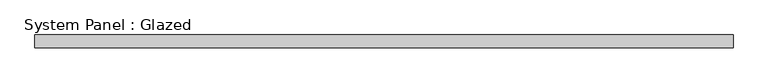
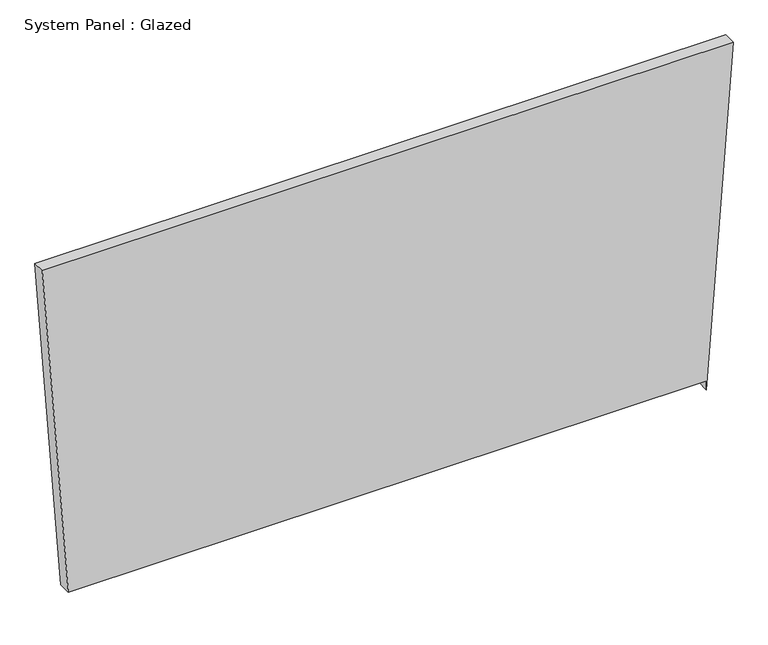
"""IFC4 building model written with IfcOpenShell, lengths in millimetres: plate geometry, System Panel : Glazed."""

import ifcopenshell
import ifcopenshell.guid

model = None  # the IFC model being written
_history = None  # IfcOwnerHistory: only IFC2X3 demands one
_inside = {}  # id of a spatial element -> (the spatial element, [elements in it])
_under = {}  # id of a project, library or spatial element -> (it, [spatial elements below it])
_declared = {}  # id of a project -> (the project, [libraries it declares])
_typed = {}  # id of a type object -> (the type object, [elements of that type])
_made_of = {}  # id of a material, layer set ... -> (it, [elements and type objects made of it])


def new_model(schema):
    """Start an empty IFC model of exactly this schema.

    Asked for "IFC4X3", IfcOpenShell would pick the latest addendum, in which some entities
    have other attributes; the version numbers below select the first issue.
    IFC2X3 requires an IfcOwnerHistory on every rooted entity: one is made here for all.
    """
    global model, _history
    if schema == "IFC4X3":
        model = ifcopenshell.file(schema_version=(4, 3, 0, 0))
    else:
        model = ifcopenshell.file(schema=schema)
    _inside.clear()
    _under.clear()
    _declared.clear()
    _typed.clear()
    _made_of.clear()
    _history = None
    if model.schema == "IFC2X3":
        org = make("IfcOrganization", Name="unknown")
        user = make(
            "IfcPersonAndOrganization",
            ThePerson=make("IfcPerson", FamilyName="unknown"),
            TheOrganization=org,
        )
        app = make(
            "IfcApplication",
            ApplicationDeveloper=org,
            Version="unknown",
            ApplicationFullName="unknown",
            ApplicationIdentifier="unknown",
        )
        _history = make(
            "IfcOwnerHistory",
            OwningUser=user,
            OwningApplication=app,
            ChangeAction="ADDED",
            CreationDate=0,
        )
    return model


def make(cls, **values):
    """One entity of the class cls with the attributes given. An attribute that is None is left unset."""
    return model.create_entity(
        cls, **{name: value for name, value in values.items() if value is not None}
    )


def rooted(cls, **values):
    """An entity with a GlobalId (a new one), such as an element, a storey or a relation."""
    return make(cls, GlobalId=ifcopenshell.guid.new(), OwnerHistory=_history, **values)


def si_unit(unit_type, name, prefix=None):
    """IfcSIUnit, for example si_unit("LENGTHUNIT", "METRE", prefix="MILLI")."""
    return make("IfcSIUnit", UnitType=unit_type, Prefix=prefix, Name=name)


def assignment(units):
    """IfcUnitAssignment: the units of a project."""
    return None if units is None else make("IfcUnitAssignment", Units=units)


def point(xyz):
    """IfcCartesianPoint."""
    return None if xyz is None else make("IfcCartesianPoint", Coordinates=xyz)


def direction(xyz):
    """IfcDirection."""
    return None if xyz is None else make("IfcDirection", DirectionRatios=xyz)


def frame(location, z_axis=None, x_axis=None):
    """IfcAxis2Placement3D, a coordinate frame: its origin and axes. An axis left out is left unset."""
    return make(
        "IfcAxis2Placement3D",
        Location=point(location),
        Axis=direction(z_axis),
        RefDirection=direction(x_axis),
    )


def origin():
    """The frame at (0, 0, 0) with its axes left unset."""
    return frame((0.0, 0.0, 0.0))


def place(relative_to, where):
    """IfcLocalPlacement: puts the frame where relative to a parent placement (None: the world)."""
    return make(
        "IfcLocalPlacement", PlacementRelTo=relative_to, RelativePlacement=where
    )


def context(
    kind, dimensions, precision=None, world=None, true_north=None, identifier=None
):
    """IfcGeometricRepresentationContext, for example the 3D "Model" context."""
    return make(
        "IfcGeometricRepresentationContext",
        ContextIdentifier=identifier,
        ContextType=kind,
        CoordinateSpaceDimension=dimensions,
        Precision=precision,
        WorldCoordinateSystem=world,
        TrueNorth=true_north,
    )


def project(units=None, contexts=None):
    """IfcProject with its units and contexts."""
    return rooted(
        "IfcProject",
        Name="project",
        RepresentationContexts=contexts,
        UnitsInContext=assignment(units),
    )


def spatial(cls, under=None, at=None, **own):
    """A site, building, storey or space (cls), placed at a placement, below another one or the project."""
    s = rooted(cls, ObjectPlacement=at, **own)
    if under is not None:
        _under.setdefault(under.id(), (under, []))[1].append(s)
    return s


def polyline(points):
    """IfcPolyline through the points."""
    return make("IfcPolyline", Points=[point(p) for p in points])


def outline(outer, holes=None, kind="AREA"):
    """IfcArbitraryClosedProfileDef: a profile drawn as a closed curve; with holes, ...WithVoids."""
    if holes is None:
        return make("IfcArbitraryClosedProfileDef", ProfileType=kind, OuterCurve=outer)
    return make(
        "IfcArbitraryProfileDefWithVoids",
        ProfileType=kind,
        OuterCurve=outer,
        InnerCurves=holes,
    )


def extrude(swept, where, along, depth):
    """IfcExtrudedAreaSolid: the profile swept, set in the frame where, extruded along a direction by depth."""
    return make(
        "IfcExtrudedAreaSolid",
        SweptArea=swept,
        Position=where,
        ExtrudedDirection=direction(along),
        Depth=depth,
    )


def shape(context_of_items, identifier, shape_type, items):
    """IfcShapeRepresentation: the items that make up one representation, for example the "Body"."""
    return make(
        "IfcShapeRepresentation",
        ContextOfItems=context_of_items,
        RepresentationIdentifier=identifier,
        RepresentationType=shape_type,
        Items=items,
    )


def source(mapping_origin, context_of_items, identifier, shape_type, items):
    """IfcRepresentationMap: a shape defined once, which mapped items show again and again."""
    return make(
        "IfcRepresentationMap",
        MappingOrigin=mapping_origin,
        MappedRepresentation=shape(context_of_items, identifier, shape_type, items),
    )


def transform(
    local_origin,
    x_axis=None,
    y_axis=None,
    z_axis=None,
    scale=None,
    scale2=None,
    scale3=None,
    uniform=True,
):
    """IfcCartesianTransformationOperator3D, or its non-uniform kind. x_axis, y_axis, z_axis: its Axis1, 2, 3."""
    if uniform:
        return make(
            "IfcCartesianTransformationOperator3D",
            Axis1=direction(x_axis),
            Axis2=direction(y_axis),
            LocalOrigin=point(local_origin),
            Scale=scale,
            Axis3=direction(z_axis),
        )
    return make(
        "IfcCartesianTransformationOperator3DnonUniform",
        Axis1=direction(x_axis),
        Axis2=direction(y_axis),
        LocalOrigin=point(local_origin),
        Scale=scale,
        Axis3=direction(z_axis),
        Scale2=scale2,
        Scale3=scale3,
    )


def mapped(mapping_source, mapping_target):
    """IfcMappedItem: shows the shape of a source again, moved by a transform."""
    return make(
        "IfcMappedItem", MappingSource=mapping_source, MappingTarget=mapping_target
    )


def made_of(thing, what):
    """Note that an element or type object is made of a material, layer set ...; save() writes the relation."""
    if what is not None:
        _made_of.setdefault(what.id(), (what, []))[1].append(thing)
    return thing


def element(
    cls,
    number,
    at=None,
    inside=None,
    cuts=None,
    type_object=None,
    material=None,
    context=None,
    identifier="Body",
    shape_type=None,
    held_by="IfcProductDefinitionShape",
    body=None,
    shapes=None,
    **own,
):
    """One element of the class cls, such as IfcWall. Its Tag is "e" and its number.

    at: its placement. inside: the storey or other place that contains it. cuts: it is an
    opening in that element (IfcRelVoidsElement). A single representation is given by context,
    identifier, shape_type and body (its items); several are given by shapes. held_by: the class
    of the entity that holds the representations. save() writes the other relations.
    """
    e = rooted(cls, Tag="e%d" % number, ObjectPlacement=at, **own)
    if body is not None:
        shapes = [shape(context, identifier, shape_type, body)]
    if shapes is not None:
        e.Representation = make(held_by, Representations=shapes)
    if inside is not None:
        _inside.setdefault(inside.id(), (inside, []))[1].append(e)
    if cuts is not None:
        rooted(
            "IfcRelVoidsElement", RelatingBuildingElement=cuts, RelatedOpeningElement=e
        )
    if type_object is not None:
        _typed.setdefault(type_object.id(), (type_object, []))[1].append(e)
    return made_of(e, material)


def aggregate(whole, parts):
    """IfcRelAggregates: a whole, such as a stair, and the parts it consists of."""
    return rooted("IfcRelAggregates", RelatingObject=whole, RelatedObjects=parts)


def save(model, path):
    """Write the relations noted so far, then the file.

    IfcRelAggregates (storeys below a building ...), IfcRelContainedInSpatialStructure (elements
    in a storey), IfcRelDefinesByType, IfcRelAssociatesMaterial and IfcRelDeclares: one each for
    every whole, place, type object, material and project.
    """
    for whole, parts in _under.values():
        aggregate(whole, parts)
    for where, things in _inside.values():
        rooted(
            "IfcRelContainedInSpatialStructure",
            RelatedElements=things,
            RelatingStructure=where,
        )
    for kind, things in _typed.values():
        rooted("IfcRelDefinesByType", RelatedObjects=things, RelatingType=kind)
    for what, things in _made_of.values():
        rooted("IfcRelAssociatesMaterial", RelatedObjects=things, RelatingMaterial=what)
    for by, libraries in _declared.values():
        rooted("IfcRelDeclares", RelatingContext=by, RelatedDefinitions=libraries)
    model.write(path)


def system_panel_glazed_6834b28e(model_context):
    return source(origin(), model_context, "Body", "SweptSolid", [
        extrude(outline(polyline([(19.05, 642.4595128), (0.0, 642.4597228), (722.902394, 696.3059824), (722.903409, -696.3059824), (19.0358149, -643.8775529), (19.05, 642.4595128)])), frame((0.0, 19.05, 0.0), z_axis=(0.0, 1.0, 0.0), x_axis=(0.0, 0.0, 1.0)), (0.0, 0.0, 1.0), 25.4),
    ])


if __name__ == "__main__":
    model = new_model("IFC4")
    model_context = context("Model", 3, world=origin())
    ifc_project = project(units=[si_unit("LENGTHUNIT", "METRE", prefix="MILLI")], contexts=[model_context])
    site = spatial("IfcSite", under=ifc_project)
    building = spatial("IfcBuilding", under=site)
    placement = place(None, origin())
    system_panel_glazed_shape = system_panel_glazed_6834b28e(model_context)
    element("IfcPlate", 1, ObjectType="System Panel : Glazed", at=placement, inside=building, context=model_context, shape_type="MappedRepresentation", body=[
        mapped(system_panel_glazed_shape, transform((0.0, 0.0, 0.0), x_axis=(1.0, 0.0, 0.0), y_axis=(0.0, 1.0, 0.0), z_axis=(0.0, 0.0, 1.0))),
    ])
    save(model, "model.ifc")
